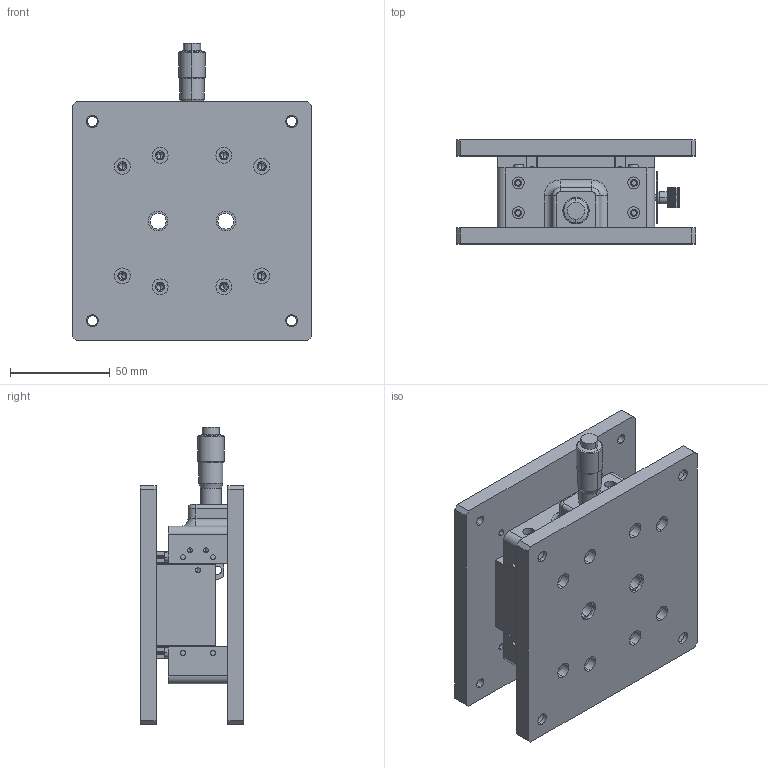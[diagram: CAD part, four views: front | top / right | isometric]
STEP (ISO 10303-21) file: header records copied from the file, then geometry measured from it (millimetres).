
FILE_DESCRIPTION (( 'STEP AP203' ), '1' );
FILE_NAME ('JCHZ-120.STEP', '2019-02-08T05:31:56', ( 'Windows 餌辨濠' ), ( '' ), 'SwSTEP 2.0', 'SolidWorks 2018', '' );
FILE_SCHEMA (( 'CONFIG_CONTROL_DESIGN' ));
Length unit declared in the file: millimetre
Products named in the file (11): FB--JCHZ100-BD-03; FC-SJ-3; FB--JCHZ100-BD-01; JCHZ-120; FB--JCHZ100-BD-02; FB--JCHZ120-BD-05; JALB-72-R; FC-PL-26X18; FC-NB-10; JV2-30-5; FB--JCHZ120-BD-04
Assembly tree (17 placements, depth 2):
  JCHZ-120
    FB--JCHZ100-BD-02
    JV2-30-5  x8
    FB--JCHZ100-BD-01
    FB--JCHZ100-BD-03
    JALB-72-R
    FB--JCHZ120-BD-05
    FB--JCHZ120-BD-04
    FC-PL-26X18
    FC-NB-10
    FC-SJ-3
Bounding box: 120 x 52 x 149.2 mm (x, y, z)
Volume: 373314.6 mm3; surface area: 121103.4 mm2
Topology: 17 solids, 17 shells, 1516 faces, 3874 edges, 2438 vertices
Faces by surface type: plane 719, cylinder 689, cone 100, torus 4, sphere 4
Entity records: 25171 total; most frequent: DIRECTION 4474, CARTESIAN_POINT 4072, ORIENTED_EDGE 3872, EDGE_CURVE 1936, AXIS2_PLACEMENT_3D 1748, VERTEX_POINT 1262, EDGE_LOOP 990, VECTOR 978
